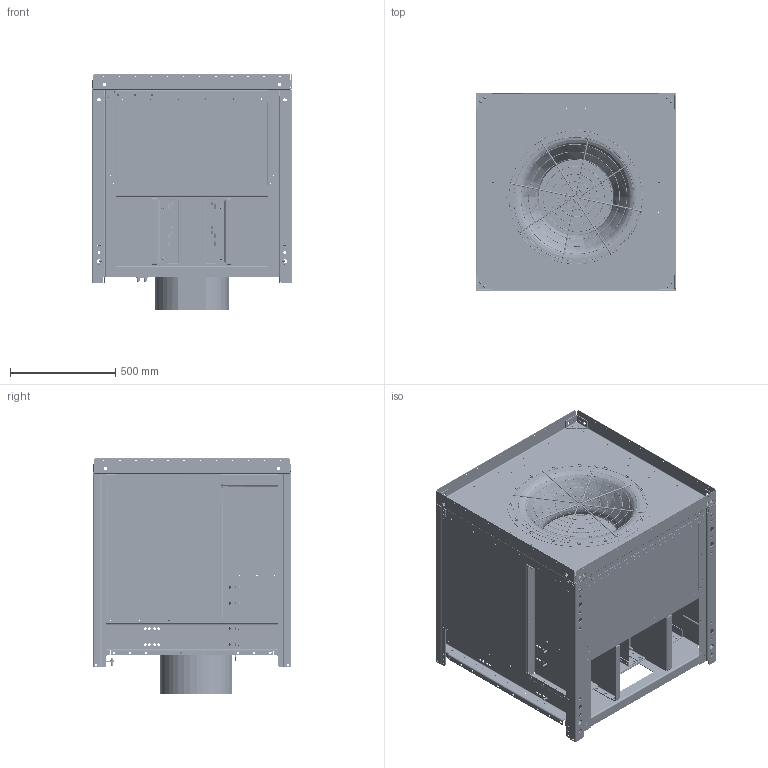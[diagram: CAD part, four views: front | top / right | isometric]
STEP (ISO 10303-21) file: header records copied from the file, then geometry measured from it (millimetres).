
FILE_DESCRIPTION((''),'2;1');
FILE_NAME('058685_ASM','2014-08-07T',('dbubemyre'),(''),'PRO/ENGINEER BY PARAMETRIC TECHNOLOGY CORPORATION, 2014090','PRO/ENGINEER BY PARAMETRIC TECHNOLOGY CORPORATION, 2014090','');
FILE_SCHEMA(('CONFIG_CONTROL_DESIGN'));
Length unit declared in the file: inch
Products named in the file (83): 0575820002; 0575830002; 0575740006; 0575880002; 057834_MIR; 0575820011_MIR; 057834; 0575990002_MIR_ASM; 0575820011; 0575740006_AF3; 0575990002_AF2_ASM; NEMA_284T_TEFC; 0575690002; 0575680009; 0576650008; 0579720003; 0575650002; 0579720003_B; 0575760002; 0575880004; 057581; NUT-INSERT_RIVET_31-18THD; WA012; HCS048; 0575660002; 0575700001; 0575790002; 0575890003_ASM; 0575660004; 0575700003; 0575790004; 0575890001_ASM; NUT-INSERT_RIVET_10-32THD; FITTING-TUBE-TO-THREAD_25; 05405801; 057632; 0544950007; 057631; 058559; BULKHEAD_TUBEFITTING_25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
Assembly tree (282 placements, depth 3):
  058685_ASM
    0575990002_MIR_ASM
      0575820002
      0575830002
      0575740006
      0575880002  x2
      057834_MIR
      0575820011_MIR
      057834
    0575990002_AF2_ASM
      0575820011
      0575830002
      0575820002
      0575740006_AF3
      0575880002  x2
      057834_MIR
      057834
    NEMA_284T_TEFC
    0575690002
    0575680009
    0576650008
    0579720003
    0575650002
    0579720003_B
    0575760002
    0575880004  x3
    057581  x4
    NUT-INSERT_RIVET_31-18THD  x16
    WA012  x16
    HCS048  x16
    0575890003_ASM
      0575660002
      0575700001
      0575790002
    0575890001_ASM
      0575660004
      0575700003
      0575790004
    NUT-INSERT_RIVET_10-32THD
    FITTING-TUBE-TO-THREAD_25
    05405801
    057632
    0544950007
    057631  x4
    058559
    BULKHEAD_TUBEFITTING_25  x2
    0575730001
    0576560002_ASM
      INLETGUARD_222
      RING_AJ
      ROD_222  x4
    057699-222_ASM
      057699_1_222
      057699_3_222  x2
      057699_2_222
      057699_4H  x32
      057699_4J  x2
      057699_4K  x2
      057699_4L  x2
      057699_4M  x54
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Bounding box: 951.47 x 943.1 x 1124.42 mm (x, y, z)
Volume: 204815095.8 mm3; surface area: 25309642.5 mm2
Topology: 274 solids, 274 shells, 6743 faces, 16242 edges, 10194 vertices
Faces by surface type: cylinder 3606, plane 2503, torus 340, cone 200, bspline 94
Entity records: 143232 total; most frequent: CARTESIAN_POINT 31757, DIRECTION 24676, ORIENTED_EDGE 21216, EDGE_CURVE 10608, AXIS2_PLACEMENT_3D 9694, VERTEX_POINT 6641, EDGE_LOOP 6055, VECTOR 5288
